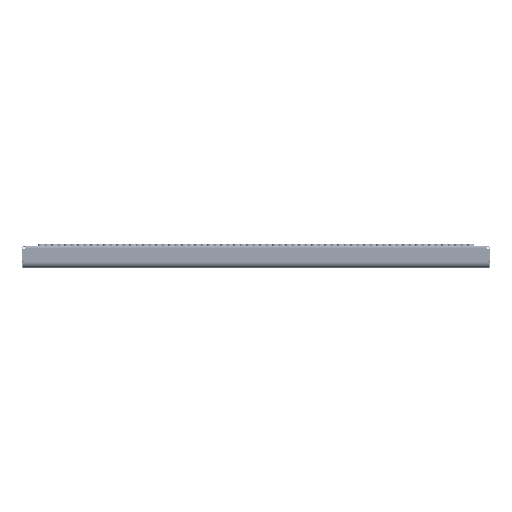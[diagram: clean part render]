
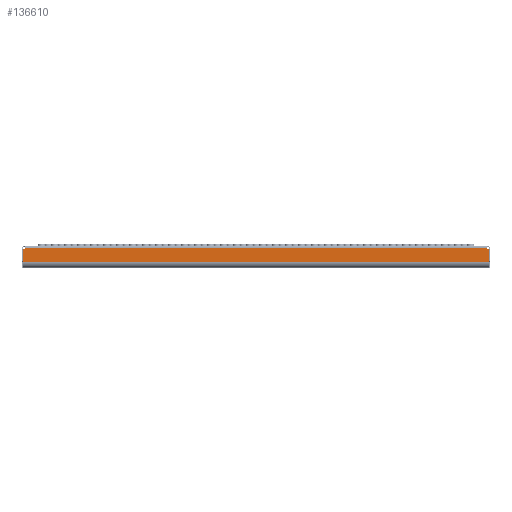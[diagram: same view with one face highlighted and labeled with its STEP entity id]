
A CAD part, top view. The second image highlights one B-rep face of the part: STEP entity #136610.
In plain terms, the highlighted planar face has unit normal (0, 0, 1).
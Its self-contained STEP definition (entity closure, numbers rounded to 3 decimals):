
#1145 = ORIENTED_EDGE ( 'NONE', *, *, #164319, .T. ) ;
#5983 = FACE_OUTER_BOUND ( 'NONE', #71010, .T. ) ;
#14525 = DIRECTION ( 'NONE',  ( 1., 0., 0. ) ) ;
#18611 = DIRECTION ( 'NONE',  ( 0., -1., 0. ) ) ;
#31882 = CARTESIAN_POINT ( 'NONE',  ( -447.99, -31.998, 75. ) ) ;
#32824 = DIRECTION ( 'NONE',  ( 0., -1., 0. ) ) ;
#32967 = CIRCLE ( 'NONE', #90443, 5. ) ;
#40035 = VERTEX_POINT ( 'NONE', #121181 ) ;
#44570 = CARTESIAN_POINT ( 'NONE',  ( 447.99, -7.185, 75. ) ) ;
#49997 = EDGE_CURVE ( 'NONE', #198649, #104710, #32967, .T. ) ;
#54553 = CARTESIAN_POINT ( 'NONE',  ( -447.99, -7.185, 75. ) ) ;
#56236 = ORIENTED_EDGE ( 'NONE', *, *, #101079, .T. ) ;
#56396 = DIRECTION ( 'NONE',  ( 0., -1., 0. ) ) ;
#59258 = EDGE_CURVE ( 'NONE', #218974, #117367, #159569, .T. ) ;
#59992 = DIRECTION ( 'NONE',  ( 0., 1., 0. ) ) ;
#63543 = CARTESIAN_POINT ( 'NONE',  ( 447.99, -7.185, 75. ) ) ;
#65139 = VECTOR ( 'NONE', #18611, 1000. ) ;
#69541 = CIRCLE ( 'NONE', #211181, 5. ) ;
#71010 = EDGE_LOOP ( 'NONE', ( #148039, #1145, #163894, #120405, #170452, #56236 ) ) ;
#73236 = AXIS2_PLACEMENT_3D ( 'NONE', #148679, #111518, #56396 ) ;
#75324 = VECTOR ( 'NONE', #14525, 1000. ) ;
#86768 = CARTESIAN_POINT ( 'NONE',  ( -449., -2.288, 75. ) ) ;
#86833 = DIRECTION ( 'NONE',  ( 0., -1., 0. ) ) ;
#87665 = CARTESIAN_POINT ( 'NONE',  ( -449., -4., 75. ) ) ;
#90443 = AXIS2_PLACEMENT_3D ( 'NONE', #86768, #159885, #32824 ) ;
#101079 = EDGE_CURVE ( 'NONE', #104710, #218974, #106165, .T. ) ;
#104710 = VERTEX_POINT ( 'NONE', #205248 ) ;
#104827 = CARTESIAN_POINT ( 'NONE',  ( 449., -2.288, 75. ) ) ;
#106165 = LINE ( 'NONE', #54553, #65139 ) ;
#111518 = DIRECTION ( 'NONE',  ( 0., 0., 1. ) ) ;
#112706 = PLANE ( 'NONE',  #73236 ) ;
#117367 = VERTEX_POINT ( 'NONE', #224130 ) ;
#120405 = ORIENTED_EDGE ( 'NONE', *, *, #137793, .F. ) ;
#121181 = CARTESIAN_POINT ( 'NONE',  ( 444.302, -4., 75. ) ) ;
#131393 = EDGE_CURVE ( 'NONE', #223203, #40035, #69541, .T. ) ;
#131583 = VECTOR ( 'NONE', #201484, 1000. ) ;
#136610 = ADVANCED_FACE ( 'NONE', ( #5983 ), #112706, .T. ) ;
#137793 = EDGE_CURVE ( 'NONE', #198649, #40035, #146344, .T. ) ;
#146344 = LINE ( 'NONE', #87665, #131583 ) ;
#148039 = ORIENTED_EDGE ( 'NONE', *, *, #59258, .T. ) ;
#148679 = CARTESIAN_POINT ( 'NONE',  ( -449., 145.712, 75. ) ) ;
#159569 = LINE ( 'NONE', #217049, #75324 ) ;
#159885 = DIRECTION ( 'NONE',  ( 0., 0., -1. ) ) ;
#163894 = ORIENTED_EDGE ( 'NONE', *, *, #131393, .T. ) ;
#164319 = EDGE_CURVE ( 'NONE', #117367, #223203, #209747, .T. ) ;
#168272 = VECTOR ( 'NONE', #59992, 1000. ) ;
#170452 = ORIENTED_EDGE ( 'NONE', *, *, #49997, .T. ) ;
#177964 = DIRECTION ( 'NONE',  ( 0., 0., -1. ) ) ;
#198649 = VERTEX_POINT ( 'NONE', #232288 ) ;
#201484 = DIRECTION ( 'NONE',  ( 1., 0., 0. ) ) ;
#205248 = CARTESIAN_POINT ( 'NONE',  ( -447.99, -7.185, 75. ) ) ;
#209747 = LINE ( 'NONE', #63543, #168272 ) ;
#211181 = AXIS2_PLACEMENT_3D ( 'NONE', #104827, #177964, #86833 ) ;
#217049 = CARTESIAN_POINT ( 'NONE',  ( -447.99, -31.998, 75. ) ) ;
#218974 = VERTEX_POINT ( 'NONE', #31882 ) ;
#223203 = VERTEX_POINT ( 'NONE', #44570 ) ;
#224130 = CARTESIAN_POINT ( 'NONE',  ( 447.99, -31.998, 75. ) ) ;
#232288 = CARTESIAN_POINT ( 'NONE',  ( -444.302, -4., 75. ) ) ;
